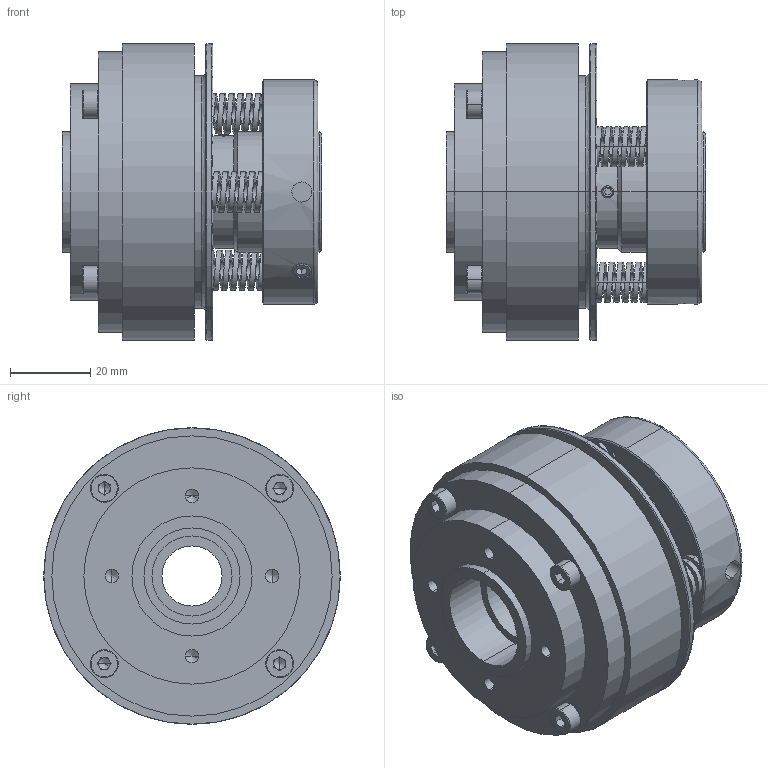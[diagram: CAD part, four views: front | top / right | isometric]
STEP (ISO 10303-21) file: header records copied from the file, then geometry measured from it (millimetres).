
FILE_DESCRIPTION (( 'STEP AP203' ), '1' );
FILE_NAME ('STL25F-L-TS1.5-N15.STEP', '2019-03-12T01:57:26', ( '' ), ( '' ), 'SwSTEP 2.0', 'SolidWorks 2015', '' );
FILE_SCHEMA (( 'CONFIG_CONTROL_DESIGN' ));
Length unit declared in the file: millimetre
Products named in the file (1): STL25F-L-TS1.5-N15
Bounding box: 64.8 x 74 x 74 mm (x, y, z)
Volume: 151114.2 mm3; surface area: 39068.5 mm2
Topology: 1 solids, 7 shells, 438 faces, 1114 edges, 704 vertices
Faces by surface type: cylinder 224, plane 138, bspline 38, cone 38
Entity records: 31455 total; most frequent: CARTESIAN_POINT 21299, ORIENTED_EDGE 2188, DIRECTION 1953, EDGE_CURVE 1094, AXIS2_PLACEMENT_3D 741, VERTEX_POINT 704, EDGE_LOOP 494, LINE 471
